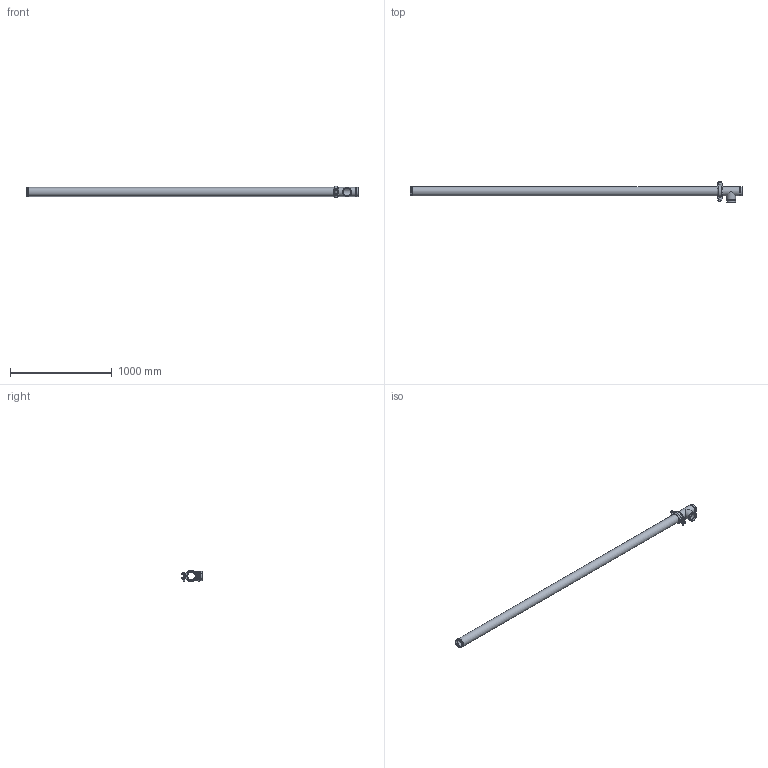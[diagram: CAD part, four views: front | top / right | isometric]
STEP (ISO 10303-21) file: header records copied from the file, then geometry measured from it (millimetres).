
FILE_DESCRIPTION(/* description */ ('VIC LONG RUN FITTING No R15 (OGS)','CAx-IF Rec.Pracs.---Representation and Presentation of Product Manufacturing Information (PMI)---4.0---2014-10-13'),/* implementation_level */ '2;1');
FILE_NAME(/* name */ 'C:\Users\Vjadhav\AppData\Roaming\Autodesk\ApplicationPlugins\Back Up\Victaulic_IPS_Long Run Fittings_No R15 (OGS)\Victaulic_IPS_Long Run Fittings_No R15 (OGS)_3 (80).stp',/* time_stamp */ '2020-10-06T19:03:58+06:00',/* author */ ('Vjadhav'),/* organization */ ('Victaulic'),/* preprocessor_version */ 'ST-DEVELOPER v17.2',/* originating_system */ 'Autodesk Inventor 2019',/* authorisation */ '');
FILE_SCHEMA (('AP242_MANAGED_MODEL_BASED_3D_ENGINEERING_MIM_LF { 1 0 10303 442 1 1 4 }'));
Length unit declared in the file: inch
Products named in the file (4): R15-03.0; 020-03.0; 107N-03.0; Pipe_R13-03.0
Assembly tree (3 placements, depth 2):
  R15-03.0
    020-03.0
    107N-03.0
    Pipe_R13-03.0
Bounding box: 3267.71 x 203.2 x 117.6 mm (x, y, z)
Volume: 5075807.8 mm3; surface area: 1818671.8 mm2
Topology: 3 solids, 3 shells, 154 faces, 401 edges, 272 vertices
Faces by surface type: plane 65, cylinder 61, bspline 18, cone 4, torus 4, sphere 2
Full cylindrical faces by diameter (mm): 12.7 x4, 22.225 x2, 76.2 x1, 77.927 x3, 84.938 x5, 88.9 x10
Entity records: 5695 total; most frequent: CARTESIAN_POINT 1466, DIRECTION 855, ORIENTED_EDGE 802, EDGE_CURVE 401, AXIS2_PLACEMENT_3D 339, VERTEX_POINT 272, EDGE_LOOP 185, LINE 177
